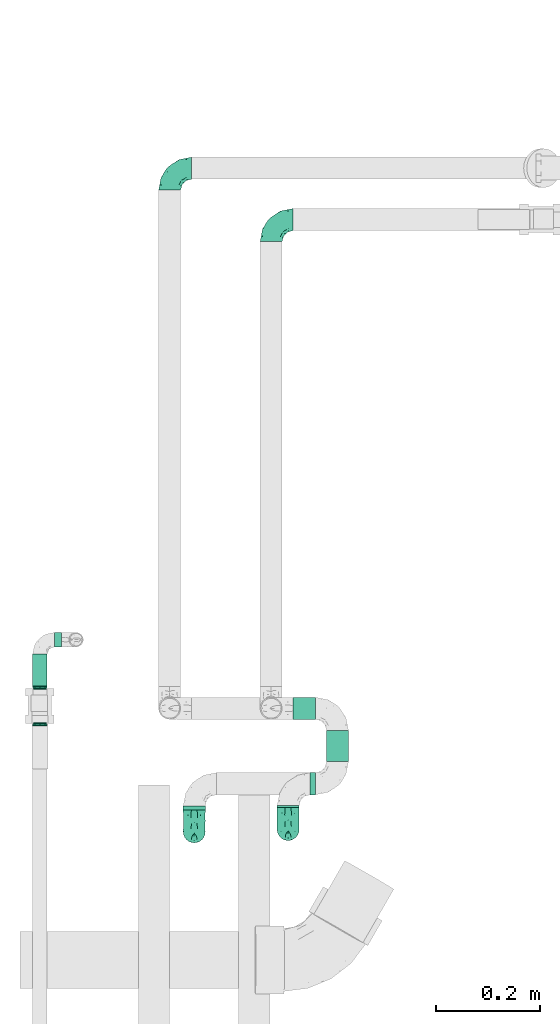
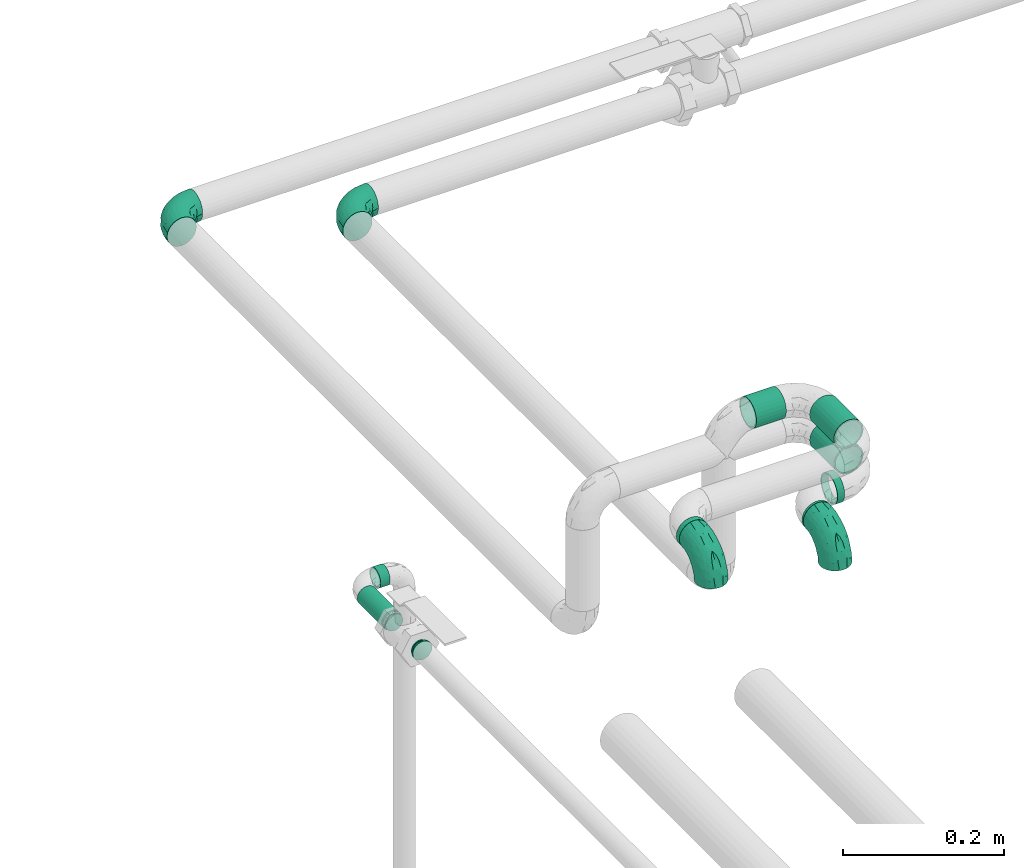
# One storey, part 17 of 35: 8 flow segments, 6 flow fittings.
"""IFC2X3 building model written with IfcOpenShell, lengths in millimetres."""

from ifc_helpers import new_model, entity, si_unit, converted_unit, derived_unit, direction, frame, origin_with_axes, origin_2d_with_axis, place, context, subcontext, project, spatial, hollow_circle, extrude, open_shell, surface_model, source, transform, mapped, type_object, element, save


model = new_model("IFC2X3")

# Units and contexts
model_context = context("Model", 3, precision=0.01, world=frame((0.0, 4.29681676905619e-09, 0.0)), true_north=direction((4.01073788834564e-13, 1.0)))
plan_context = context("Plan", 3, precision=0.01, world=frame((0.0, 4.29681676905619e-09, 0.0)), true_north=direction((4.01073788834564e-13, 1.0)))
body_context = subcontext(model_context, "Body", "Model", "MODEL_VIEW")
ifc_project = project(units=[converted_unit("PLANEANGLEUNIT", "DEGREE", entity("IfcPositiveLengthMeasure", 0.0174532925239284), si_unit("PLANEANGLEUNIT", "RADIAN"), dimensions=[0, 0, 0, 0, 0, 0, 0]), si_unit("AREAUNIT", "SQUARE_METRE"), si_unit("LENGTHUNIT", "METRE", prefix="MILLI"), si_unit("MASSUNIT", "GRAM", prefix="KILO"), si_unit("POWERUNIT", "WATT"), si_unit("PRESSUREUNIT", "PASCAL"), si_unit("FORCEUNIT", "NEWTON", prefix="KILO"), si_unit("ELECTRICVOLTAGEUNIT", "VOLT"), si_unit("ELECTRICCURRENTUNIT", "AMPERE"), si_unit("THERMODYNAMICTEMPERATUREUNIT", "DEGREE_CELSIUS"), si_unit("TIMEUNIT", "SECOND"), si_unit("VOLUMEUNIT", "CUBIC_METRE"), derived_unit("LINEARVELOCITYUNIT", [(si_unit("LENGTHUNIT", "METRE"), 1), (si_unit("TIMEUNIT", "SECOND"), -1)]), derived_unit("VOLUMETRICFLOWRATEUNIT", [(si_unit("VOLUMEUNIT", "CUBIC_METRE"), 1), (si_unit("TIMEUNIT", "SECOND"), -1)]), derived_unit("THERMALTRANSMITTANCEUNIT", [(si_unit("POWERUNIT", "WATT"), 1), (si_unit("THERMODYNAMICTEMPERATUREUNIT", "KELVIN"), -1), (si_unit("AREAUNIT", "SQUARE_METRE"), -1)]), derived_unit("SOUNDPRESSUREUNIT", [(si_unit("PRESSUREUNIT", "PASCAL"), 1)])], contexts=[model_context, plan_context])

# Site, building, storey
site_placement = place(None, frame((0.0, -4.29681676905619e-09, 0.0), z_axis=(0.0, 0.0, 1.0), x_axis=(1.0, 0.0, 0.0)))
site = spatial("IfcSite", under=ifc_project, at=site_placement, Name="ENGM", CompositionType="ELEMENT")
building_placement = place(site_placement, frame((0.0, 4.29681676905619e-09, 0.0), z_axis=(0.0, 0.0, 1.0), x_axis=(1.0, 0.0, 0.0)))
building = spatial("IfcBuilding", under=site, at=building_placement, Name="TH", CompositionType="ELEMENT")
storey_placement = place(building_placement, frame((0.0, 0.0, 210200.0), z_axis=(0.0, 0.0, 1.0), x_axis=(1.0, 0.0, 0.0)))
storey = spatial("IfcBuildingStorey", under=building, at=storey_placement, Name="Nivå F - 0,7 m", CompositionType="ELEMENT", Elevation=210200.0)

# Flow fittings
pipe_fitting_type_1 = type_object("IfcPipeFittingType", Name="magi_pipe_fe_elbow_short_001", PredefinedType="BEND")
shared_shape_1 = source(origin_with_axes(), body_context, "Body", "SurfaceModel", [
    surface_model("IfcShellBasedSurfaceModel", [(-42.4, 10.6, -18.35974), (-42.4, 5.48696, -20.47763), (-42.4, 0.0, -21.2), (-42.4, 14.99066, -14.99066), (-42.4, 20.47763, -5.48696), (-42.4, 18.35974, -10.6), (-42.4, -14.99066, 14.99066), (-42.4, -21.2, 0.0), (-42.4, -10.6, -18.35974), (-42.4, -14.99066, -14.99066), (-42.4, -5.48696, -20.47763), (-42.4, -18.35974, -10.6), (-42.4, -20.47763, -5.48696), (-42.4, 10.6, 18.35974), (-42.4, 20.47763, 5.48696), (-42.4, 18.35974, 10.6), (-42.4, 14.99066, 14.99066), (-42.4, 5.48696, 20.47763), (-42.4, 0.0, 21.2), (-42.4, -20.47763, 5.48696), (-42.4, -18.35974, 10.6), (-42.4, -10.6, 18.35974), (-42.4, -5.48696, 20.47763), (-42.4, 21.2, 0.0), (0.0, 42.4, -21.2), (-5.48696, 42.4, -20.47763), (-10.6, 42.4, -18.35974), (-14.99066, 42.4, -14.99066), (-18.35974, 42.4, -10.6), (-20.47763, 42.4, -5.48696), (21.2, 42.4, 0.0), (5.48696, 42.4, -20.47763), (14.99066, 42.4, -14.99066), (10.6, 42.4, -18.35974), (18.35974, 42.4, -10.6), (20.47763, 42.4, -5.48696), (14.99066, 42.4, 14.99066), (-20.47763, 42.4, 5.48696), (-10.6, 42.4, 18.35974), (-14.99066, 42.4, 14.99066), (-18.35974, 42.4, 10.6), (-5.48696, 42.4, 20.47763), (0.0, 42.4, 21.2), (18.35974, 42.4, 10.6), (20.47763, 42.4, 5.48696), (5.48696, 42.4, 20.47763), (10.6, 42.4, 18.35974), (-21.2, 42.4, 0.0), (-31.10239, -16.47009, 11.90111), (-27.83957, -12.231, 15.79732), (-30.23067, -18.77937, 0.0), (-18.74048, -13.50096, 10.69998), (-28.17586, -18.50359, 6.61185), (18.50359, 28.17586, 6.61185), (14.95929, 16.60735, 5.43468), (16.35874, 18.06133, 0.0), (-20.72313, 33.83635, 9.21426), (-17.70981, 33.00599, 13.92769), (-31.16033, -8.01664, 19.07348), (-32.38682, -2.80842, 20.83743), (-29.68688, 3.24967, 21.16387), (-7.74467, -9.46536, 0.0), (-16.60735, -14.95929, 5.43468), (-18.06133, -16.35874, 0.0), (-16.37932, -5.14532, 17.61254), (-21.10659, -0.19025, 20.54817), (-1.82445, -3.58377, 9.55223), (-0.35533, 0.43745, 12.66367), (-7.20655, -5.07682, 13.06146), (-33.14056, 17.6728, 13.91288), (-7.36799, 20.84806, 21.16196), (-15.70315, 15.70315, 20.68489), (-12.62356, 9.26422, 21.0908), (-36.67879, 12.83836, 17.27427), (-7.91358, 36.5686, 19.85759), (-2.90555, 31.71221, 21.14793), (-33.84689, 20.71971, 9.21285), (-33.51649, 22.58113, 4.66115), (-26.3226, 26.3226, 7.92474), (-32.67995, 8.31454, 20.02643), (-5.53379, 14.19921, 20.81623), (-10.53385, 3.88918, 19.79653), (-2.16577, 11.45378, 19.48254), (-3.78693, 3.78693, 17.3328), (12.231, 27.83957, 15.79732), (13.50096, 18.74047, 10.69998), (16.47009, 31.10239, 11.90111), (-22.53806, 14.38475, 19.60876), (-23.29615, 9.08095, 20.82061), (2.80842, 32.38682, 20.83743), (8.01664, 31.16033, 19.07348), (5.14532, 16.37932, 17.61254), (18.77937, 30.23067, 0.0), (-20.80278, 5.19491, 21.19095), (-19.62579, 22.38752, 17.42006), (-29.19336, 14.39093, 17.85259), (-22.31569, 34.20044, 4.54807), (-26.56962, 27.80621, 3.73106), (9.67657, 17.17133, 14.49993), (-24.04026, 31.8, 0.0), (-9.16861, 28.72652, 20.19004), (-12.09761, 21.9456, 20.37969), (-15.36991, 27.40112, 17.818), (-16.88976, 20.52477, 19.2896), (-12.95169, 35.54896, 17.36222), (-17.17133, -9.67657, 14.49993), (-21.98655, 28.10245, 11.99898), (-22.34699, 23.67592, 15.01692), (-27.22822, 22.77969, 11.82161), (0.19025, 21.10658, 20.54817), (4.8276, 7.36347, 13.42842), (-10.06209, -9.46364, 9.95114), (1.25876, -2.7536, 5.73797), (6.43781, 3.77591, 7.40371), (6.57528, 2.20066, 3.17705), (10.91934, 8.84313, 5.00748), (10.64415, 10.99764, 8.89767), (-31.8, 24.04026, 0.0), (-5.71381, -8.43063, 6.15529), (2.57199, -2.57199, 0.0), (9.46536, 7.74467, 0.0), (-17.17133, -9.67657, -14.49993), (-27.83957, -12.231, -15.79732), (-16.37932, -5.14532, -17.61254), (-18.74048, -13.50096, -10.69998), (-33.00599, 17.70981, -13.92769), (-35.54896, 12.95169, -17.36222), (-34.20044, 22.31569, -4.54807), (-28.17586, -18.50359, -6.61185), (-26.3226, 26.3226, -7.92474), (-33.83635, 20.72313, -9.21426), (-16.60735, -14.95929, -5.43468), (-20.52477, 16.88976, -19.2896), (-21.9456, 12.0976, -20.37969), (-27.40112, 15.36991, -17.818), (-12.83836, 36.67879, -17.27427), (-17.6728, 33.14056, -13.91288), (8.01664, 31.16033, -19.07348), (5.14532, 16.37932, -17.61254), (0.19025, 21.10658, -20.54817), (-36.5686, 7.91358, -19.85759), (-31.10239, -16.47009, -11.90111), (-31.16033, -8.01664, -19.07348), (-14.38475, 22.53806, -19.60876), (-8.31454, 32.67995, -20.02643), (-9.08095, 23.29615, -20.82061), (-32.38682, -2.80842, -20.83743), (-20.84806, 7.36799, -21.16196), (-15.70315, 15.70314, -20.68489), (-9.26422, 12.62356, -21.0908), (-31.71221, 2.90555, -21.14793), (-22.58113, 33.51649, -4.66115), (-20.71971, 33.84689, -9.21285), (-28.72652, 9.16861, -20.19004), (-27.80621, 26.56962, -3.73106), (-5.19491, 20.80278, -21.19095), (-22.38752, 19.62579, -17.42006), (-14.39093, 29.19336, -17.85259), (2.80842, 32.38682, -20.83743), (-3.24967, 29.68688, -21.16387), (16.47009, 31.10239, -11.90111), (12.231, 27.83957, -15.79732), (6.57528, 2.20067, -3.17705), (10.91934, 8.84313, -5.00749), (-14.19921, 5.53379, -20.81623), (-3.88918, 10.53385, -19.79653), (-11.45378, 2.16577, -19.48254), (1.25876, -2.7536, -5.73797), (-5.71381, -8.43063, -6.15529), (-1.82445, -3.58377, -9.55223), (13.50096, 18.74048, -10.69998), (18.50359, 28.17586, -6.61185), (14.95929, 16.60735, -5.43468), (-28.10245, 21.98655, -11.99898), (9.67657, 17.17133, -14.49993), (10.64415, 10.99764, -8.89767), (4.8276, 7.36347, -13.42842), (-23.67592, 22.34699, -15.01692), (-22.77969, 27.22822, -11.82161), (-21.10658, -0.19025, -20.54817), (-3.78693, 3.78693, -17.3328), (-7.20655, -5.07682, -13.06146), (-10.06209, -9.46364, -9.95113), (-0.35533, 0.43745, -12.66367), (6.43781, 3.77591, -7.40371)], [open_shell([[[0, 1, 2]], [[3, 0, 2]], [[4, 5, 3]], [[2, 4, 3]], [[6, 2, 7]], [[8, 9, 10]], [[11, 10, 9]], [[12, 7, 11]], [[2, 10, 11]], [[11, 7, 2]], [[6, 4, 2]], [[13, 14, 4]], [[15, 14, 16]], [[4, 6, 13]], [[16, 14, 13]], [[17, 13, 18]], [[19, 20, 7]], [[7, 20, 6]], [[21, 22, 6]], [[18, 6, 22]], [[6, 18, 13]], [[23, 4, 14]], [[24, 25, 26]], [[24, 26, 27]], [[27, 28, 29]], [[27, 29, 24]], [[24, 29, 30]], [[31, 32, 33]], [[31, 24, 32]], [[34, 30, 35]], [[32, 24, 34]], [[24, 30, 34]], [[29, 36, 30]], [[29, 37, 38]], [[39, 37, 40]], [[36, 29, 38]], [[38, 37, 39]], [[41, 42, 38]], [[30, 43, 44]], [[36, 43, 30]], [[36, 45, 46]], [[45, 36, 42]], [[38, 42, 36]], [[37, 29, 47]], [[6, 48, 49]], [[19, 7, 50]], [[51, 48, 52]], [[53, 54, 55]], [[48, 6, 20]], [[19, 52, 20]], [[40, 56, 57]], [[49, 21, 6]], [[49, 58, 21]], [[18, 59, 60]], [[61, 62, 63]], [[58, 64, 65]], [[66, 67, 68]], [[15, 16, 69]], [[70, 71, 72]], [[13, 73, 16]], [[22, 59, 18]], [[41, 74, 75]], [[18, 60, 17]], [[15, 69, 76]], [[16, 73, 69]], [[23, 14, 77]], [[14, 15, 76]], [[77, 76, 78]], [[17, 79, 13]], [[80, 81, 82]], [[68, 83, 64]], [[84, 36, 46]], [[85, 86, 84]], [[87, 79, 88]], [[21, 58, 22]], [[42, 89, 45]], [[53, 44, 43]], [[42, 41, 75]], [[84, 90, 91]], [[43, 86, 53]], [[92, 44, 53]], [[86, 43, 36]], [[90, 46, 45]], [[53, 55, 92]], [[88, 93, 72]], [[54, 53, 85]], [[87, 94, 95]], [[78, 96, 97]], [[98, 84, 91]], [[99, 96, 47]], [[79, 17, 60]], [[96, 78, 56]], [[62, 52, 63]], [[57, 39, 40]], [[100, 70, 75]], [[101, 102, 103]], [[19, 50, 52]], [[104, 38, 39]], [[74, 41, 38]], [[57, 102, 104]], [[105, 64, 49]], [[90, 84, 46]], [[40, 37, 56]], [[56, 106, 57]], [[102, 57, 107]], [[95, 107, 69]], [[76, 108, 78]], [[100, 101, 70]], [[89, 75, 109]], [[64, 58, 49]], [[63, 52, 50]], [[59, 58, 65]], [[105, 49, 51]], [[64, 83, 81]], [[89, 90, 45]], [[30, 44, 92]], [[109, 82, 91]], [[109, 91, 90]], [[91, 83, 110]], [[111, 68, 105]], [[66, 68, 111]], [[62, 51, 52]], [[66, 112, 113]], [[114, 115, 113]], [[98, 85, 84]], [[52, 48, 20]], [[49, 48, 51]], [[84, 86, 36]], [[53, 86, 85]], [[88, 79, 60]], [[73, 79, 95]], [[96, 56, 37]], [[78, 108, 106]], [[87, 103, 94]], [[100, 74, 104]], [[108, 69, 107]], [[78, 97, 77]], [[88, 72, 71]], [[109, 75, 70]], [[81, 72, 65]], [[70, 72, 80]], [[75, 89, 42]], [[90, 89, 109]], [[58, 59, 22]], [[60, 59, 65]], [[67, 83, 68]], [[110, 113, 116]], [[88, 60, 93]], [[87, 88, 71]], [[103, 87, 71]], [[79, 87, 95]], [[101, 103, 71]], [[94, 103, 102]], [[47, 96, 37]], [[96, 99, 97]], [[99, 117, 97]], [[97, 117, 77]], [[23, 77, 117]], [[14, 76, 77]], [[60, 65, 93]], [[65, 72, 93]], [[70, 101, 71]], [[102, 101, 100]], [[69, 108, 76]], [[106, 108, 107]], [[57, 106, 107]], [[78, 106, 56]], [[57, 104, 39]], [[100, 104, 102]], [[102, 107, 94]], [[95, 94, 107]], [[64, 81, 65]], [[82, 81, 83]], [[91, 82, 83]], [[80, 82, 109]], [[70, 80, 109]], [[81, 80, 72]], [[79, 73, 13]], [[69, 73, 95]], [[104, 74, 38]], [[75, 74, 100]], [[62, 61, 118]], [[111, 62, 118]], [[113, 115, 116]], [[119, 118, 61]], [[111, 105, 51]], [[113, 112, 114]], [[120, 55, 54]], [[68, 64, 105]], [[91, 110, 98]], [[116, 98, 110]], [[62, 111, 51]], [[66, 111, 118]], [[112, 66, 118]], [[67, 113, 110]], [[118, 119, 112]], [[114, 112, 119]], [[119, 120, 114]], [[115, 120, 54]], [[120, 115, 114]], [[116, 54, 85]], [[54, 116, 115]], [[116, 85, 98]], [[113, 67, 66]], [[83, 67, 110]], [[121, 122, 123]], [[122, 121, 124]], [[5, 125, 3]], [[3, 126, 0]], [[117, 127, 23]], [[50, 12, 128]], [[127, 129, 130]], [[128, 131, 63]], [[132, 133, 134]], [[27, 135, 136]], [[137, 138, 139]], [[0, 140, 1]], [[128, 11, 141]], [[142, 8, 10]], [[128, 63, 50]], [[5, 4, 130]], [[11, 9, 141]], [[143, 144, 145]], [[146, 10, 2]], [[147, 148, 149]], [[11, 128, 12]], [[124, 141, 122]], [[150, 2, 1]], [[151, 152, 129]], [[125, 134, 126]], [[153, 147, 150]], [[127, 154, 129]], [[145, 155, 149]], [[47, 29, 151]], [[143, 156, 157]], [[152, 29, 28]], [[24, 158, 159]], [[122, 9, 8]], [[27, 26, 135]], [[144, 26, 25]], [[32, 160, 161]], [[24, 31, 158]], [[120, 162, 163]], [[130, 125, 5]], [[27, 136, 28]], [[1, 140, 150]], [[33, 161, 137]], [[142, 122, 8]], [[24, 159, 25]], [[164, 165, 166]], [[167, 168, 169]], [[34, 160, 32]], [[161, 33, 32]], [[170, 160, 171]], [[131, 128, 124]], [[30, 92, 35]], [[35, 92, 171]], [[172, 171, 55]], [[35, 171, 34]], [[144, 25, 159]], [[130, 173, 125]], [[174, 175, 176]], [[136, 152, 28]], [[33, 137, 31]], [[122, 142, 123]], [[134, 125, 177]], [[157, 177, 136]], [[152, 178, 129]], [[153, 133, 147]], [[146, 150, 179]], [[146, 142, 10]], [[7, 12, 50]], [[179, 166, 123]], [[179, 123, 142]], [[123, 180, 181]], [[138, 137, 161]], [[55, 171, 92]], [[158, 137, 139]], [[174, 161, 170]], [[138, 180, 165]], [[180, 138, 176]], [[124, 121, 182]], [[176, 183, 180]], [[61, 131, 168]], [[169, 168, 182]], [[172, 170, 171]], [[122, 141, 9]], [[128, 141, 124]], [[171, 160, 34]], [[161, 160, 170]], [[145, 144, 159]], [[135, 144, 157]], [[127, 130, 4]], [[129, 178, 173]], [[143, 132, 156]], [[153, 140, 126]], [[178, 136, 177]], [[129, 154, 151]], [[145, 149, 148]], [[179, 150, 147]], [[165, 149, 139]], [[147, 149, 164]], [[150, 146, 2]], [[142, 146, 179]], [[137, 158, 31]], [[159, 158, 139]], [[174, 138, 161]], [[184, 169, 183]], [[145, 159, 155]], [[143, 145, 148]], [[132, 143, 148]], [[144, 143, 157]], [[133, 132, 148]], [[156, 132, 134]], [[23, 127, 4]], [[127, 117, 154]], [[117, 99, 154]], [[154, 99, 151]], [[47, 151, 99]], [[29, 152, 151]], [[159, 139, 155]], [[139, 149, 155]], [[147, 133, 148]], [[134, 133, 153]], [[136, 178, 152]], [[173, 178, 177]], [[125, 173, 177]], [[129, 173, 130]], [[125, 126, 3]], [[153, 126, 134]], [[134, 177, 156]], [[157, 156, 177]], [[138, 165, 139]], [[166, 165, 180]], [[123, 166, 180]], [[164, 166, 179]], [[147, 164, 179]], [[165, 164, 149]], [[144, 135, 26]], [[136, 135, 157]], [[126, 140, 0]], [[150, 140, 153]], [[182, 131, 124]], [[168, 119, 61]], [[119, 167, 162]], [[63, 131, 61]], [[172, 163, 175]], [[172, 55, 120]], [[123, 181, 121]], [[182, 121, 181]], [[175, 174, 170]], [[176, 138, 174]], [[169, 182, 181]], [[131, 182, 168]], [[183, 169, 181]], [[167, 169, 184]], [[162, 167, 184]], [[119, 168, 167]], [[163, 162, 184]], [[120, 119, 162]], [[175, 163, 184]], [[120, 163, 172]], [[176, 175, 184]], [[172, 175, 170]], [[180, 183, 181]], [[184, 183, 176]]])]),
])
for number, where, z_axis, x_axis, name in (
    (1, (895595.39181, 481196.37011, 2978.79999999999), (0.0, 0.0, 1.0), (-1.0, 0.0, 0.0), "magi_pipe_fe_elbow_short_001"),
    (2, (895399.93442, 481295.36097, 2978.79999999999), (0.0, 0.0, 1.0), (-1.0, 0.0, 0.0), "magi_pipe_fe_elbow_short_001"),
    (3, (895447.40675, 480017.46747, 3225.76131), (1.0, 0.0, 0.0), (0.0, -1.0, 0.0), "magi_pipe_fe_elbow_short_001"),
    (4, (895628.1602, 480021.92131, 3187.0), (1.0, 0.0, 0.0), (0.0, -1.0, 0.0), "magi_pipe_fe_elbow_short_001"),
):
    element("IfcFlowFitting", number, at=place(storey_placement, frame(where, z_axis=z_axis, x_axis=x_axis)), inside=storey, type_object=pipe_fitting_type_1, Name=name, context=body_context, shape_type="MappedRepresentation", body=[
        mapped(shared_shape_1, transform((0.0, 0.0, 0.0), scale=1.0)),
    ])
pipe_fitting_type_2 = type_object("IfcPipeFittingType", Name="magi_pipe_cu_reducer_centric_short_001", PredefinedType="TRANSITION")
shared_shape_2 = source(origin_with_axes(), body_context, "Body", "SurfaceModel", [
    surface_model("IfcShellBasedSurfaceModel", [(-2.0, 9.89949, 9.89949), (-2.0, 0.0, 14.0), (-2.0, 3.62347, 13.52296), (-2.0, 7.0, 12.12436), (-2.0, 12.12436, 7.0), (-2.0, 13.52296, 3.62347), (-2.0, -14.0, 0.0), (-2.0, -12.12436, -7.0), (-2.0, -3.62347, 13.52296), (-2.0, -9.89949, 9.89949), (-2.0, -7.0, 12.12436), (-2.0, -13.52296, 3.62347), (-2.0, -12.12436, 7.0), (-2.0, 13.52296, -3.62347), (-2.0, 3.62347, -13.52296), (-2.0, 12.12436, -7.0), (-2.0, 9.89949, -9.89949), (-2.0, 7.0, -12.12436), (-2.0, 0.0, -14.0), (-2.0, -7.0, -12.12436), (-2.0, -9.89949, -9.89949), (-2.0, -13.52296, -3.62347), (-2.0, -3.62347, -13.52296), (-2.0, 14.0, 0.0), (0.0, 3.62347, -13.52296), (0.0, 7.0, -12.12436), (0.0, 9.89949, -9.89949), (0.0, 12.12436, -7.0), (0.0, 13.52296, -3.62347), (0.0, -7.0, -12.12436), (0.0, -12.12436, -7.0), (0.0, 14.0, 0.0), (0.0, 0.0, -14.0), (0.0, -3.62347, -13.52296), (0.0, -9.89949, -9.89949), (0.0, -13.52296, -3.62347), (0.0, 13.52296, 3.62347), (0.0, 12.12436, 7.0), (0.0, 9.89949, 9.89949), (0.0, 7.0, 12.12436), (0.0, 3.62347, 13.52296), (0.0, 0.0, 14.0), (0.0, -3.62347, 13.52296), (0.0, -13.52296, 3.62347), (0.0, -9.89949, 9.89949), (0.0, -12.12436, 7.0), (0.0, -14.0, 0.0), (0.0, -7.0, 12.12436), (5.0, 3.23524, -12.07407), (5.0, 6.25, -10.82532), (5.0, 8.83883, -8.83883), (5.0, 12.07407, -3.23524), (5.0, -12.07407, -3.23524), (5.0, 10.82532, -6.25), (5.0, -10.82532, 6.25), (5.0, 0.0, -12.5), (5.0, -6.25, -10.82532), (5.0, -3.23524, -12.07407), (5.0, -8.83883, -8.83883), (5.0, -10.82532, -6.25), (5.0, 12.5, 0.0), (5.0, 12.07407, 3.23524), (5.0, 10.82532, 6.25), (5.0, 8.83883, 8.83883), (5.0, 6.25, 10.82532), (5.0, 3.23524, 12.07407), (5.0, 0.0, 12.5), (5.0, -12.5, 0.0), (5.0, -12.07407, 3.23524), (5.0, -6.25, 10.82532), (5.0, -8.83883, 8.83883), (5.0, -3.23524, 12.07407), (3.0, 0.0, 12.5), (3.0, 3.23524, 12.07407), (3.0, 6.25, 10.82532), (3.0, -10.82532, 6.25), (3.0, 8.83883, 8.83883), (3.0, 10.82532, 6.25), (3.0, 12.07407, 3.23524), (3.0, -12.07407, -3.23524), (3.0, -3.23524, 12.07407), (3.0, -8.83883, 8.83883), (3.0, -6.25, 10.82532), (3.0, -12.5, 0.0), (3.0, -12.07407, 3.23524), (3.0, 12.07407, -3.23524), (3.0, 8.83883, -8.83883), (3.0, 10.82532, -6.25), (3.0, 6.25, -10.82532), (3.0, 3.23524, -12.07407), (3.0, -6.25, -10.82532), (3.0, -8.83883, -8.83883), (3.0, -10.82532, -6.25), (3.0, 0.0, -12.5), (3.0, -3.23524, -12.07407), (3.0, 12.5, 0.0), (3.0, 11.10264, -3.37353), (3.0, 9.97074, -6.10618), (0.0, 11.94975, -4.94975), (0.0, 12.97487, -2.47487), (0.0, 2.47487, -12.97487), (3.0, 4.41942, -10.66942), (0.0, 7.42462, -10.92462), (3.0, 6.62913, -9.75413), (0.0, 4.94975, -11.94975), (3.0, 2.20971, -11.58471), (0.0, -11.94975, -4.94975), (3.0, -10.66942, -4.41942), (3.0, -11.58471, -2.20971), (3.0, -2.20971, -11.58471), (3.0, -9.75413, -6.62913), (0.0, -13.21748, -1.88918), (0.0, -10.92462, -7.42462), (3.0, -4.41942, -10.66942), (3.0, -6.62913, -9.75413), (0.0, -4.94975, -11.94975), (0.0, -2.47487, -12.97487), (0.0, -7.42462, -10.92462), (0.0, 10.92462, -7.42462), (3.0, -11.10264, 3.37353), (3.0, -9.97074, 6.10618), (0.0, -11.94975, 4.94975), (0.0, -12.97487, 2.47487), (0.0, -2.47487, 12.97487), (3.0, -4.41942, 10.66942), (0.0, -7.42462, 10.92462), (3.0, -6.62913, 9.75413), (0.0, -4.94975, 11.94975), (3.0, -2.20971, 11.58471), (0.0, 11.94975, 4.94975), (3.0, 10.66942, 4.41942), (3.0, 11.58471, 2.20971), (3.0, 2.20971, 11.58471), (3.0, 9.75413, 6.62913), (0.0, 13.21748, 1.88918), (0.0, 10.92462, 7.42462), (3.0, 4.41942, 10.66942), (3.0, 6.62913, 9.75413), (0.0, 4.94975, 11.94975), (0.0, 2.47487, 12.97487), (0.0, 7.42462, 10.92462), (0.0, -10.92462, 7.42462)], [open_shell([[[0, 1, 2]], [[0, 2, 3]], [[0, 4, 5]], [[0, 5, 1]], [[6, 1, 7]], [[8, 9, 10]], [[9, 8, 11]], [[9, 11, 12]], [[11, 8, 6]], [[8, 1, 6]], [[1, 5, 7]], [[7, 5, 13]], [[14, 13, 15]], [[16, 17, 14]], [[16, 14, 15]], [[18, 13, 14]], [[7, 19, 20]], [[21, 6, 7]], [[19, 18, 22]], [[19, 7, 13]], [[18, 19, 13]], [[5, 23, 13]], [[24, 25, 26]], [[24, 26, 27]], [[24, 28, 29]], [[28, 24, 27]], [[30, 28, 31]], [[32, 29, 33]], [[32, 24, 29]], [[29, 30, 34]], [[28, 30, 29]], [[31, 35, 30]], [[31, 36, 35]], [[36, 37, 38]], [[36, 38, 39]], [[40, 41, 36]], [[40, 36, 39]], [[36, 41, 42]], [[43, 44, 45]], [[42, 43, 46]], [[44, 42, 47]], [[42, 44, 43]], [[46, 36, 42]], [[36, 46, 35]], [[21, 35, 6]], [[7, 30, 21]], [[29, 20, 19]], [[7, 20, 34]], [[33, 19, 22]], [[21, 30, 35]], [[35, 46, 6]], [[33, 29, 19]], [[34, 20, 29]], [[34, 30, 7]], [[32, 33, 22]], [[22, 18, 32]], [[14, 24, 18]], [[17, 25, 14]], [[27, 16, 15]], [[17, 16, 26]], [[28, 15, 13]], [[17, 26, 25]], [[25, 24, 14]], [[31, 28, 13]], [[27, 15, 28]], [[27, 26, 16]], [[23, 31, 13]], [[18, 24, 32]], [[5, 36, 23]], [[4, 37, 5]], [[39, 0, 3]], [[4, 0, 38]], [[40, 3, 2]], [[5, 37, 36]], [[36, 31, 23]], [[40, 39, 3]], [[38, 0, 39]], [[38, 37, 4]], [[41, 40, 2]], [[2, 1, 41]], [[8, 42, 1]], [[10, 47, 8]], [[45, 9, 12]], [[10, 9, 44]], [[43, 12, 11]], [[10, 44, 47]], [[47, 42, 8]], [[46, 43, 11]], [[45, 12, 43]], [[45, 44, 9]], [[6, 46, 11]], [[1, 42, 41]], [[41, 38, 44]], [[46, 44, 38]], [[38, 32, 46]], [[34, 46, 32]], [[26, 38, 31]], [[48, 49, 50]], [[48, 50, 51]], [[48, 51, 52]], [[51, 50, 53]], [[54, 52, 51]], [[55, 56, 57]], [[55, 48, 56]], [[58, 52, 59]], [[52, 58, 56]], [[48, 52, 56]], [[51, 60, 54]], [[61, 62, 63]], [[61, 63, 64]], [[64, 65, 66]], [[61, 64, 54]], [[54, 64, 66]], [[67, 54, 68]], [[52, 54, 67]], [[54, 69, 70]], [[69, 54, 71]], [[66, 71, 54]], [[54, 60, 61]], [[72, 73, 74]], [[75, 72, 74]], [[76, 77, 78]], [[74, 76, 79]], [[74, 79, 75]], [[80, 81, 82]], [[81, 80, 75]], [[75, 83, 84]], [[75, 80, 72]], [[75, 79, 83]], [[85, 76, 78]], [[79, 76, 85]], [[86, 85, 87]], [[86, 88, 89]], [[86, 89, 85]], [[90, 85, 89]], [[79, 91, 92]], [[79, 85, 91]], [[90, 93, 94]], [[91, 85, 90]], [[89, 93, 90]], [[85, 78, 95]], [[79, 52, 83]], [[92, 59, 79]], [[56, 91, 90]], [[92, 91, 58]], [[57, 90, 94]], [[79, 59, 52]], [[52, 67, 83]], [[57, 56, 90]], [[58, 91, 56]], [[58, 59, 92]], [[55, 57, 94]], [[94, 93, 55]], [[89, 48, 93]], [[88, 49, 89]], [[53, 86, 87]], [[88, 86, 50]], [[51, 87, 85]], [[88, 50, 49]], [[49, 48, 89]], [[60, 51, 85]], [[53, 87, 51]], [[53, 50, 86]], [[95, 60, 85]], [[93, 48, 55]], [[78, 61, 95]], [[77, 62, 78]], [[64, 76, 74]], [[77, 76, 63]], [[65, 74, 73]], [[78, 62, 61]], [[61, 60, 95]], [[65, 64, 74]], [[63, 76, 64]], [[63, 62, 77]], [[66, 65, 73]], [[73, 72, 66]], [[80, 71, 72]], [[82, 69, 80]], [[54, 81, 75]], [[82, 81, 70]], [[68, 75, 84]], [[82, 70, 69]], [[69, 71, 80]], [[67, 68, 84]], [[54, 75, 68]], [[54, 70, 81]], [[83, 67, 84]], [[72, 71, 66]], [[72, 81, 95]], [[95, 76, 72]], [[81, 91, 95]], [[93, 95, 91]], [[86, 95, 93]], [[91, 81, 83]], [[32, 38, 26]], [[96, 97, 98]], [[95, 96, 99]], [[95, 99, 31]], [[93, 32, 100]], [[101, 102, 103]], [[26, 86, 103]], [[104, 105, 100]], [[106, 107, 108]], [[96, 98, 99]], [[32, 93, 109]], [[110, 34, 91]], [[108, 83, 111]], [[107, 112, 110]], [[34, 110, 112]], [[113, 114, 115]], [[113, 116, 109]], [[93, 100, 105]], [[114, 91, 117]], [[32, 109, 116]], [[86, 118, 97]], [[101, 104, 102]], [[26, 103, 102]], [[105, 104, 101]], [[83, 46, 111]], [[106, 108, 111]], [[112, 107, 106]], [[91, 34, 117]], [[115, 114, 117]], [[116, 113, 115]], [[118, 86, 26]], [[118, 98, 97]], [[119, 120, 121]], [[83, 119, 122]], [[83, 122, 46]], [[72, 41, 123]], [[124, 125, 126]], [[44, 81, 126]], [[127, 128, 123]], [[129, 130, 131]], [[119, 121, 122]], [[41, 72, 132]], [[133, 38, 76]], [[131, 95, 134]], [[130, 135, 133]], [[38, 133, 135]], [[136, 137, 138]], [[136, 139, 132]], [[72, 123, 128]], [[137, 76, 140]], [[41, 132, 139]], [[81, 141, 120]], [[124, 127, 125]], [[44, 126, 125]], [[128, 127, 124]], [[95, 31, 134]], [[129, 131, 134]], [[135, 130, 129]], [[76, 38, 140]], [[138, 137, 140]], [[139, 136, 138]], [[141, 81, 44]], [[141, 121, 120]]])]),
])
for number, where, z_axis, x_axis, name in (
    (5, (895150.16007, 480223.31097, 3055.47382000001), (0.0, 0.0, 1.0), (0.0, 1.0, 0.0), "magi_pipe_cu_reducer_centric_short_001"),
    (6, (895150.16007, 480296.31097, 3055.47382000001), (0.0, 0.0, 1.0), (0.0, -1.0, 0.0), "magi_pipe_cu_reducer_centric_short_001"),
):
    element("IfcFlowFitting", number, at=place(storey_placement, frame(where, z_axis=z_axis, x_axis=x_axis)), inside=storey, type_object=pipe_fitting_type_2, Name=name, context=body_context, shape_type="MappedRepresentation", body=[
        mapped(shared_shape_2, transform((0.0, 0.0, 0.0), scale=1.0)),
    ])

# Flow segments
pipe_segment_type_1 = type_object("IfcPipeSegmentType", Name="Stålrør normaltykke", PredefinedType="RIGIDSEGMENT")
shared_shape_3 = source(origin_with_axes(), body_context, "Body", "SweptSolid", [
    extrude(hollow_circle(Radius=21.2, WallThickness=2.0, at=origin_2d_with_axis()), frame((0.0, 0.0, 0.0), z_axis=(1.0, 0.0, 0.0), x_axis=(0.0, 1.0, 0.0)), (0.0, 0.0, 1.0), 7.8),
])
flow_segment_1_placement = place(storey_placement, frame((895447.40675, 480059.86747, 3225.76131), z_axis=(0.0, 0.0, 1.0), x_axis=(0.0, 1.0, 0.0)))
element("IfcFlowSegment", 7, at=flow_segment_1_placement, inside=storey, type_object=pipe_segment_type_1, Name="Stålrør normaltykke", context=body_context, shape_type="MappedRepresentation", body=[
    mapped(shared_shape_3, transform((0.0, 0.0, 0.0), scale=1.0)),
])
shared_shape_4 = source(origin_with_axes(), body_context, "Body", "SweptSolid", [
    extrude(hollow_circle(Radius=21.2, WallThickness=2.0, at=origin_2d_with_axis()), frame((0.0, 0.0, 0.0), z_axis=(1.0, 0.0, 0.0), x_axis=(0.0, 1.0, 0.0)), (0.0, 0.0, 1.0), 3.4),
])
flow_segment_2_placement = place(storey_placement, frame((895628.1602, 480064.32131, 3187.0), z_axis=(0.0, 0.0, 1.0), x_axis=(0.0, 1.0, 0.0)))
element("IfcFlowSegment", 8, at=flow_segment_2_placement, inside=storey, type_object=pipe_segment_type_1, Name="Stålrør normaltykke", context=body_context, shape_type="MappedRepresentation", body=[
    mapped(shared_shape_4, transform((0.0, 0.0, 0.0), scale=1.0)),
])
shared_shape_5 = source(origin_with_axes(), body_context, "Body", "SweptSolid", [
    extrude(hollow_circle(Radius=21.2, WallThickness=2.0, at=origin_2d_with_axis()), frame((0.0, 0.0, 0.0), z_axis=(1.0, 0.0, 0.0), x_axis=(0.0, 1.0, 0.0)), (0.0, 0.0, 1.0), 10.2),
])
flow_segment_3_placement = place(storey_placement, frame((895670.5602, 480110.09284, 3187.0), z_axis=(0.0, 0.0, 1.0), x_axis=(1.0, 0.0, 0.0)))
element("IfcFlowSegment", 9, at=flow_segment_3_placement, inside=storey, type_object=pipe_segment_type_1, Name="Stålrør normaltykke", context=body_context, shape_type="MappedRepresentation", body=[
    mapped(shared_shape_5, transform((0.0, 0.0, 0.0), scale=1.0, scale2=1.0, scale3=1.0, uniform=False)),
])
shared_shape_6 = source(origin_with_axes(), body_context, "Body", "SweptSolid", [
    extrude(hollow_circle(Radius=21.2, WallThickness=2.0, at=origin_2d_with_axis()), frame((0.0, 0.0, 0.0), z_axis=(1.0, 0.0, 0.0), x_axis=(0.0, 1.0, 0.0)), (0.0, 0.0, 1.0), 60.5),
])
for number, where, z_axis, x_axis in (
    (10, (895723.1602, 480152.49284, 3187.0), (0.0, 0.0, 1.0), (0.0, 1.0, 0.0)),
    (11, (895723.1602, 480152.49284, 3225.76131), (0.0, -0.000375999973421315, 0.999999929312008), (0.0, 0.999999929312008, 0.000375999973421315)),
):
    element("IfcFlowSegment", number, at=place(storey_placement, frame(where, z_axis=z_axis, x_axis=x_axis)), inside=storey, type_object=pipe_segment_type_1, Name="Stålrør normaltykke", context=body_context, shape_type="MappedRepresentation", body=[
        mapped(shared_shape_6, transform((0.0, 0.0, 0.0), scale=1.0)),
    ])
shared_shape_7 = source(origin_with_axes(), body_context, "Body", "SweptSolid", [
    extrude(hollow_circle(Radius=21.2, WallThickness=2.0, at=origin_2d_with_axis()), frame((0.0, 0.0, 0.0), z_axis=(1.0, 0.0, 0.0), x_axis=(0.0, 1.0, 0.0)), (0.0, 0.0, 1.0), 43.0),
])
flow_segment_4_placement = place(storey_placement, frame((895637.79181, 480255.36097, 3225.79999999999), z_axis=(0.0, 0.0, 1.0), x_axis=(1.0, 0.0, 0.0)))
element("IfcFlowSegment", 12, at=flow_segment_4_placement, inside=storey, type_object=pipe_segment_type_1, Name="Stålrør normaltykke", context=body_context, shape_type="MappedRepresentation", body=[
    mapped(shared_shape_7, transform((0.0, 0.0, 0.0), scale=1.0)),
])
pipe_segment_type_2 = type_object("IfcPipeSegmentType", Name="Kobberrør", PredefinedType="RIGIDSEGMENT")
shared_shape_8 = source(origin_with_axes(), body_context, "Body", "SweptSolid", [
    extrude(hollow_circle(Radius=14.0, WallThickness=2.0, at=origin_2d_with_axis()), frame((0.0, 0.0, 0.0), z_axis=(1.0, 0.0, 0.0), x_axis=(0.0, 1.0, 0.0)), (0.0, 0.0, 1.0), 63.2),
])
flow_segment_5_placement = place(storey_placement, frame((895150.16007, 480296.31097, 3055.47382000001), z_axis=(0.0, 0.0, 1.0), x_axis=(0.0, 1.0, 0.0)))
element("IfcFlowSegment", 13, at=flow_segment_5_placement, inside=storey, type_object=pipe_segment_type_2, Name="Kobberrør", context=body_context, shape_type="MappedRepresentation", body=[
    mapped(shared_shape_8, transform((0.0, 0.0, 0.0), scale=1.0)),
])
shared_shape_9 = source(origin_with_axes(), body_context, "Body", "SweptSolid", [
    extrude(hollow_circle(Radius=14.0, WallThickness=2.0, at=origin_2d_with_axis()), frame((0.0, 0.0, 0.0), z_axis=(1.0, 0.0, 0.0), x_axis=(0.0, 1.0, 0.0)), (0.0, 0.0, 1.0), 13.7),
])
flow_segment_6_placement = place(storey_placement, frame((895178.16007, 480387.5, 3055.47382000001), z_axis=(0.0, 0.0, 1.0), x_axis=(1.0, 0.0, 0.0)))
element("IfcFlowSegment", 14, at=flow_segment_6_placement, inside=storey, type_object=pipe_segment_type_2, Name="Kobberrør", context=body_context, shape_type="MappedRepresentation", body=[
    mapped(shared_shape_9, transform((0.0, 0.0, 0.0), scale=1.0)),
])

save(model, "model.ifc")
